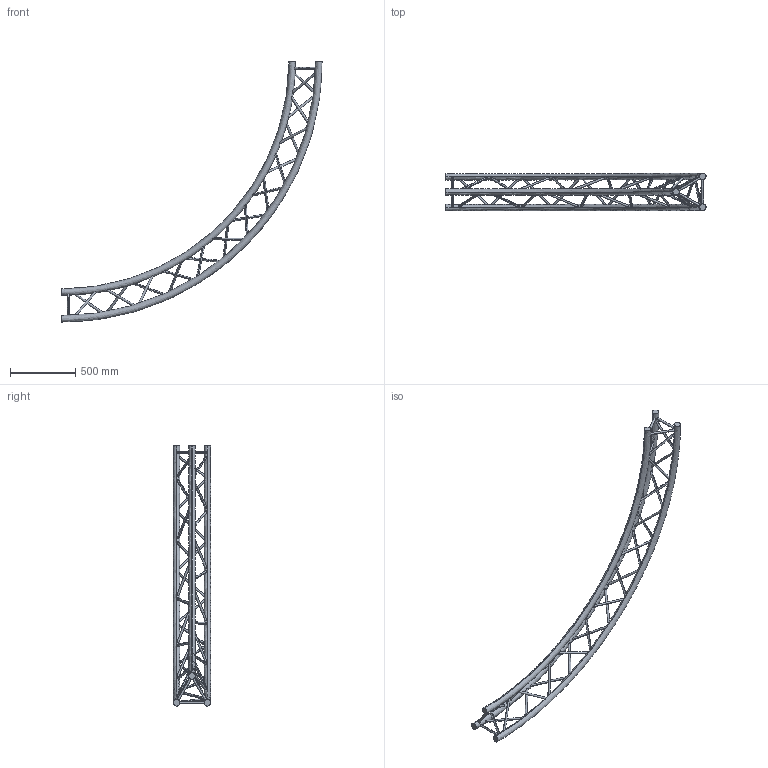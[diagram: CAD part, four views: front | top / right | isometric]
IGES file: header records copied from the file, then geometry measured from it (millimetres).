
Start section: SolidWorks IGES file using analytic representation for surfaces
Global section: file name: K:\BIBLIO\asd_biblio\SX290\Cercles\SXC29PI\SXC29400PI\SXC29400PI.IGS; native system: SolidWorks 2009; preprocessor: SolidWorks 2009; author: des3; date: 091021.105854; units: millimetre
Bounding box: 2000 x 287 x 2000 mm (x, y, z)
Surface area: 1934130.2 mm2 (no closed solid volume)
Topology: 0 solids, 0 shells, 96 faces, 6772 edges, 6772 vertices
Faces by surface type: revolution 84, bspline 12
